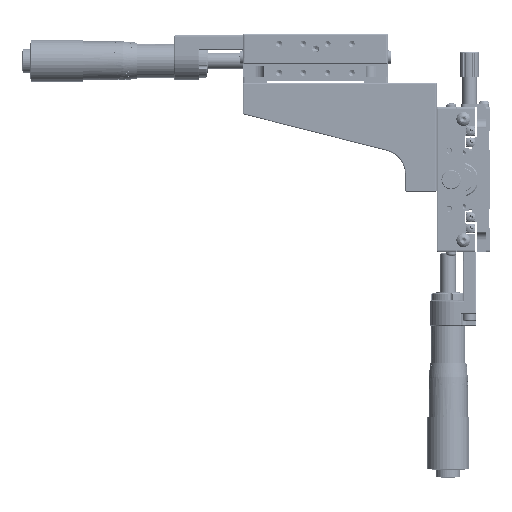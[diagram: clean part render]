
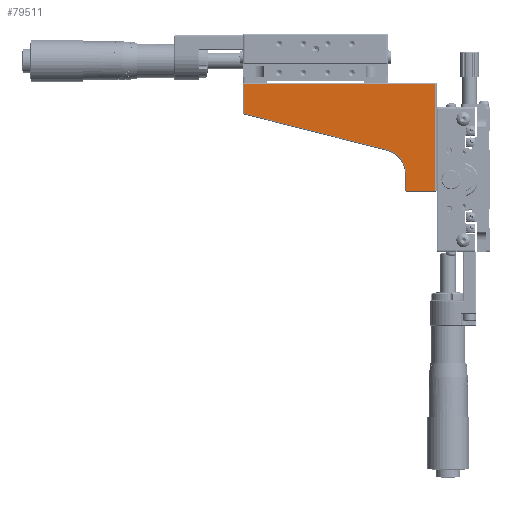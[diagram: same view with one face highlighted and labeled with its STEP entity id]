
A CAD part, left-side view. The second image highlights one B-rep face of the part: STEP entity #79511.
In plain terms, the highlighted planar face has unit normal (-1, 0, 0).
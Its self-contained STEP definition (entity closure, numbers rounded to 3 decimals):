
#45 = EDGE_CURVE ( 'NONE', #82529, #85675, #1848, .T. ) ;
#1017 = LINE ( 'NONE', #38308, #106879 ) ;
#1848 = LINE ( 'NONE', #39137, #80944 ) ;
#2296 = CARTESIAN_POINT ( 'NONE',  ( 0., 0.5, 0. ) ) ;
#2333 = LINE ( 'NONE', #39611, #106682 ) ;
#3441 = VECTOR ( 'NONE', #14627, 1000. ) ;
#13460 = VERTEX_POINT ( 'NONE', #78939 ) ;
#14543 = AXIS2_PLACEMENT_3D ( 'NONE', #99342, #41967, #79371 ) ;
#14627 = DIRECTION ( 'NONE',  ( 0., -0.969, -0.246 ) ) ;
#17825 = EDGE_LOOP ( 'NONE', ( #89679, #73904, #120044, #38679, #18540, #120133, #45109 ) ) ;
#18540 = ORIENTED_EDGE ( 'NONE', *, *, #67951, .T. ) ;
#21584 = VERTEX_POINT ( 'NONE', #30049 ) ;
#25103 = CARTESIAN_POINT ( 'NONE',  ( 0., 12.5, -45. ) ) ;
#27844 = VERTEX_POINT ( 'NONE', #81053 ) ;
#28204 = DIRECTION ( 'NONE',  ( -1., 0., 0. ) ) ;
#30049 = CARTESIAN_POINT ( 'NONE',  ( 0., 12.5, -44.5 ) ) ;
#37416 = FACE_OUTER_BOUND ( 'NONE', #17825, .T. ) ;
#37503 = CARTESIAN_POINT ( 'NONE',  ( 0., 0.5, -0.5 ) ) ;
#38308 = CARTESIAN_POINT ( 'NONE',  ( 0., 0., -44.5 ) ) ;
#38679 = ORIENTED_EDGE ( 'NONE', *, *, #52801, .T. ) ;
#39137 = CARTESIAN_POINT ( 'NONE',  ( 0., 80., -0.5 ) ) ;
#39567 = DIRECTION ( 'NONE',  ( 0., 0., 1. ) ) ;
#39611 = CARTESIAN_POINT ( 'NONE',  ( 0., 79.5, -13. ) ) ;
#40719 = VERTEX_POINT ( 'NONE', #113650 ) ;
#41967 = DIRECTION ( 'NONE',  ( 1., 0., 0. ) ) ;
#43754 = EDGE_CURVE ( 'NONE', #40719, #82529, #86177, .T. ) ;
#45109 = ORIENTED_EDGE ( 'NONE', *, *, #90358, .T. ) ;
#52801 = EDGE_CURVE ( 'NONE', #85675, #27844, #2333, .T. ) ;
#55530 = VERTEX_POINT ( 'NONE', #80415 ) ;
#56389 = VECTOR ( 'NONE', #62470, 1000. ) ;
#59012 = CARTESIAN_POINT ( 'NONE',  ( 0., 79.5, -0.5 ) ) ;
#61179 = LINE ( 'NONE', #98529, #3441 ) ;
#62470 = DIRECTION ( 'NONE',  ( 0., 0., -1. ) ) ;
#65586 = DIRECTION ( 'NONE',  ( 0., 0., 1. ) ) ;
#67348 = CIRCLE ( 'NONE', #14543, 10.5 ) ;
#67951 = EDGE_CURVE ( 'NONE', #27844, #55530, #61179, .T. ) ;
#73904 = ORIENTED_EDGE ( 'NONE', *, *, #43754, .T. ) ;
#74810 = PLANE ( 'NONE',  #91115 ) ;
#75741 = DIRECTION ( 'NONE',  ( 0., -1., 0. ) ) ;
#76544 = DIRECTION ( 'NONE',  ( 0., 1., 0. ) ) ;
#77024 = DIRECTION ( 'NONE',  ( 0., 0., -1. ) ) ;
#78939 = CARTESIAN_POINT ( 'NONE',  ( 0., 12.5, -37.78 ) ) ;
#79371 = DIRECTION ( 'NONE',  ( 0., 0., 1. ) ) ;
#79511 = ADVANCED_FACE ( 'NONE', ( #37416 ), #74810, .T. ) ;
#80082 = EDGE_CURVE ( 'NONE', #21584, #40719, #1017, .T. ) ;
#80415 = CARTESIAN_POINT ( 'NONE',  ( 0., 20.418, -27.602 ) ) ;
#80944 = VECTOR ( 'NONE', #76544, 1000. ) ;
#81053 = CARTESIAN_POINT ( 'NONE',  ( 0., 79.5, -12.611 ) ) ;
#82529 = VERTEX_POINT ( 'NONE', #37503 ) ;
#83976 = VECTOR ( 'NONE', #39567, 1000. ) ;
#85675 = VERTEX_POINT ( 'NONE', #59012 ) ;
#86177 = LINE ( 'NONE', #2296, #83976 ) ;
#89679 = ORIENTED_EDGE ( 'NONE', *, *, #80082, .T. ) ;
#90358 = EDGE_CURVE ( 'NONE', #13460, #21584, #109009, .T. ) ;
#91115 = AXIS2_PLACEMENT_3D ( 'NONE', #112142, #28204, #65586 ) ;
#98529 = CARTESIAN_POINT ( 'NONE',  ( 0., 20.418, -27.602 ) ) ;
#99342 = CARTESIAN_POINT ( 'NONE',  ( 0., 23., -37.78 ) ) ;
#106682 = VECTOR ( 'NONE', #77024, 1000. ) ;
#106879 = VECTOR ( 'NONE', #75741, 1000. ) ;
#109009 = LINE ( 'NONE', #25103, #56389 ) ;
#112142 = CARTESIAN_POINT ( 'NONE',  ( 0., 0., 0. ) ) ;
#113650 = CARTESIAN_POINT ( 'NONE',  ( 0., 0.5, -44.5 ) ) ;
#115428 = EDGE_CURVE ( 'NONE', #55530, #13460, #67348, .T. ) ;
#120044 = ORIENTED_EDGE ( 'NONE', *, *, #45, .T. ) ;
#120133 = ORIENTED_EDGE ( 'NONE', *, *, #115428, .T. ) ;
